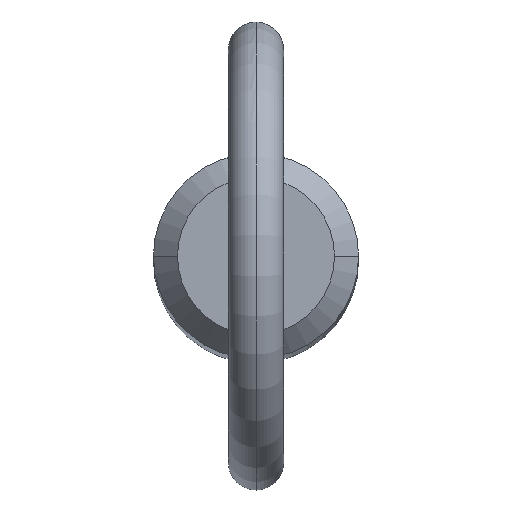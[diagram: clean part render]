
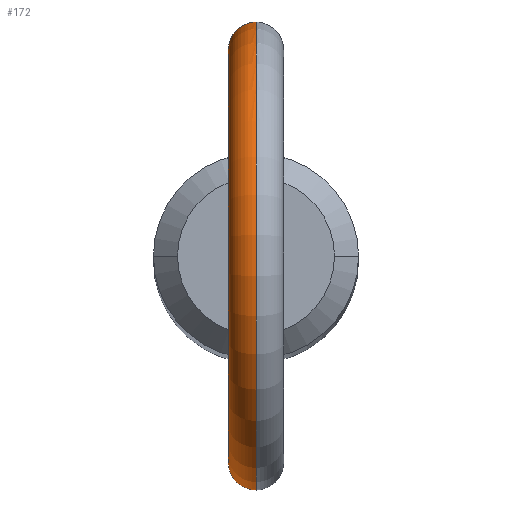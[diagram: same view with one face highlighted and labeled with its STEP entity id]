
A CAD part, top view. The second image highlights one B-rep face of the part: STEP entity #172.
In plain terms, the highlighted toroidal (fillet/blend) face has major radius 11.2 mm and minor radius 1.5 mm.
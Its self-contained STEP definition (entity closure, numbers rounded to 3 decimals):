
#4 = CARTESIAN_POINT ( 'NONE',  ( 0., 5.55, 123.177 ) ) ;
#6 = EDGE_CURVE ( 'NONE', #24, #300, #73, .T. ) ;
#8 = CARTESIAN_POINT ( 'NONE',  ( -1.321, 5.397, 125.704 ) ) ;
#11 = CARTESIAN_POINT ( 'NONE',  ( -1.054, -5.449, 123.604 ) ) ;
#15 = CARTESIAN_POINT ( 'NONE',  ( -0.785, -5.497, 126.358 ) ) ;
#19 = CARTESIAN_POINT ( 'NONE',  ( 0., 5.55, 123.177 ) ) ;
#24 = VERTEX_POINT ( 'NONE', #4 ) ;
#44 = DIRECTION ( 'NONE',  ( 1., 0., 0. ) ) ;
#51 = AXIS2_PLACEMENT_3D ( 'NONE', #491, #457, #451 ) ;
#57 = CARTESIAN_POINT ( 'NONE',  ( -1.486, 5.348, 124.438 ) ) ;
#59 = CARTESIAN_POINT ( 'NONE',  ( 0., -5.55, 123.177 ) ) ;
#69 = CARTESIAN_POINT ( 'NONE',  ( -0.425, 5.537, 123.221 ) ) ;
#73 = CIRCLE ( 'NONE', #417, 12.7 ) ;
#83 = EDGE_LOOP ( 'NONE', ( #316, #459, #310, #411 ) ) ;
#93 = CARTESIAN_POINT ( 'NONE',  ( -1.26, -5.407, 123.842 ) ) ;
#97 = EDGE_CURVE ( 'NONE', #379, #24, #162, .T. ) ;
#101 = CARTESIAN_POINT ( 'NONE',  ( -0.523, -5.526, 123.266 ) ) ;
#140 = CARTESIAN_POINT ( 'NONE',  ( -0.786, 5.497, 126.357 ) ) ;
#141 = CARTESIAN_POINT ( 'NONE',  ( -0.807, -5.492, 123.405 ) ) ;
#145 = CARTESIAN_POINT ( 'NONE',  ( -1.474, 5.351, 125.285 ) ) ;
#146 = CARTESIAN_POINT ( 'NONE',  ( -0.513, -5.527, 126.523 ) ) ;
#162 = B_SPLINE_CURVE_WITH_KNOTS ( 'NONE', 3,
 ( #329, #335, #248, #140, #373, #8, #145, #504, #57, #367, #287, #342, #430, #387, #433, #69, #474, #19 ),
 .UNSPECIFIED., .F., .F.,
 ( 4, 2, 2, 2, 2, 2, 2, 2, 4 ),
 ( 0.006, 0.006, 0.007, 0.008, 0.009, 0.009, 0.01, 0.01, 0.011 ),
 .UNSPECIFIED. ) ;
#166 = CARTESIAN_POINT ( 'NONE',  ( 0., 0., 134.6 ) ) ;
#171 = CARTESIAN_POINT ( 'NONE',  ( -1.455, -5.356, 124.336 ) ) ;
#172 = ADVANCED_FACE ( 'NONE', ( #450 ), #228, .T. ) ;
#180 = CARTESIAN_POINT ( 'NONE',  ( -0.416, -5.535, 126.567 ) ) ;
#181 = DIRECTION ( 'NONE',  ( 1., 0., 0. ) ) ;
#186 = CARTESIAN_POINT ( 'NONE',  ( 0., 0., 134.6 ) ) ;
#206 = CARTESIAN_POINT ( 'NONE',  ( -1.477, -5.35, 124.442 ) ) ;
#209 = CARTESIAN_POINT ( 'NONE',  ( -1.195, -5.421, 125.871 ) ) ;
#228 = TOROIDAL_SURFACE ( 'NONE', #432, 11.2, 1.5 ) ;
#241 = CARTESIAN_POINT ( 'NONE',  ( 0., 5.55, 126.645 ) ) ;
#247 = CARTESIAN_POINT ( 'NONE',  ( -1.5, -5.343, 124.653 ) ) ;
#248 = CARTESIAN_POINT ( 'NONE',  ( -0.425, 5.537, 126.577 ) ) ;
#252 = CARTESIAN_POINT ( 'NONE',  ( -1.485, -5.348, 125.079 ) ) ;
#255 = CARTESIAN_POINT ( 'NONE',  ( -0.107, -5.55, 123.177 ) ) ;
#282 = CARTESIAN_POINT ( 'NONE',  ( 0., -5.55, 123.177 ) ) ;
#287 = CARTESIAN_POINT ( 'NONE',  ( -1.26, 5.407, 123.843 ) ) ;
#290 = CARTESIAN_POINT ( 'NONE',  ( -0.211, -5.547, 126.629 ) ) ;
#300 = VERTEX_POINT ( 'NONE', #282 ) ;
#310 = ORIENTED_EDGE ( 'NONE', *, *, #322, .T. ) ;
#316 = ORIENTED_EDGE ( 'NONE', *, *, #6, .F. ) ;
#319 = DIRECTION ( 'NONE',  ( 0., 0., -1. ) ) ;
#322 = EDGE_CURVE ( 'NONE', #379, #525, #402, .T. ) ;
#326 = CARTESIAN_POINT ( 'NONE',  ( -0.212, -5.547, 123.188 ) ) ;
#329 = CARTESIAN_POINT ( 'NONE',  ( 0., 5.55, 126.645 ) ) ;
#331 = CARTESIAN_POINT ( 'NONE',  ( -0.106, -5.55, 126.645 ) ) ;
#335 = CARTESIAN_POINT ( 'NONE',  ( -0.213, 5.55, 126.645 ) ) ;
#336 = CARTESIAN_POINT ( 'NONE',  ( -0.42, -5.535, 123.232 ) ) ;
#339 = DIRECTION ( 'NONE',  ( 0., 0., -1. ) ) ;
#342 = CARTESIAN_POINT ( 'NONE',  ( -1.055, 5.449, 123.605 ) ) ;
#367 = CARTESIAN_POINT ( 'NONE',  ( -1.363, 5.38, 124.034 ) ) ;
#368 = CARTESIAN_POINT ( 'NONE',  ( -1.44, -5.36, 125.287 ) ) ;
#373 = CARTESIAN_POINT ( 'NONE',  ( -0.941, 5.471, 126.207 ) ) ;
#374 = CARTESIAN_POINT ( 'NONE',  ( -0.716, -5.504, 123.352 ) ) ;
#375 = CARTESIAN_POINT ( 'NONE',  ( -0.939, -5.472, 126.21 ) ) ;
#379 = VERTEX_POINT ( 'NONE', #241 ) ;
#387 = CARTESIAN_POINT ( 'NONE',  ( -0.807, 5.492, 123.406 ) ) ;
#402 = CIRCLE ( 'NONE', #51, 9.7 ) ;
#411 = ORIENTED_EDGE ( 'NONE', *, *, #510, .F. ) ;
#417 = AXIS2_PLACEMENT_3D ( 'NONE', #166, #44, #319 ) ;
#423 = CARTESIAN_POINT ( 'NONE',  ( -0.976, -5.464, 123.531 ) ) ;
#430 = CARTESIAN_POINT ( 'NONE',  ( -0.976, 5.464, 123.531 ) ) ;
#432 = AXIS2_PLACEMENT_3D ( 'NONE', #186, #181, #339 ) ;
#433 = CARTESIAN_POINT ( 'NONE',  ( -0.716, 5.504, 123.352 ) ) ;
#440 = B_SPLINE_CURVE_WITH_KNOTS ( 'NONE', 3,
 ( #59, #255, #326, #336, #101, #374, #141, #423, #11, #93, #466, #171, #206, #247, #505, #252, #368, #462, #209, #375, #15, #146, #180, #290, #331, #500 ),
 .UNSPECIFIED., .F., .F.,
 ( 4, 2, 2, 2, 2, 2, 2, 2, 2, 2, 2, 2, 4 ),
 ( 0.01, 0.01, 0.01, 0.011, 0.011, 0.012, 0.012, 0.012, 0.013, 0.013, 0.014, 0.014, 0.015 ),
 .UNSPECIFIED. ) ;
#450 = FACE_OUTER_BOUND ( 'NONE', #83, .T. ) ;
#451 = DIRECTION ( 'NONE',  ( 0., 0., -1. ) ) ;
#457 = DIRECTION ( 'NONE',  ( 1., 0., 0. ) ) ;
#459 = ORIENTED_EDGE ( 'NONE', *, *, #97, .F. ) ;
#462 = CARTESIAN_POINT ( 'NONE',  ( -1.294, -5.398, 125.686 ) ) ;
#466 = CARTESIAN_POINT ( 'NONE',  ( -1.362, -5.381, 124.032 ) ) ;
#467 = CARTESIAN_POINT ( 'NONE',  ( 0., -5.55, 126.645 ) ) ;
#474 = CARTESIAN_POINT ( 'NONE',  ( -0.214, 5.55, 123.177 ) ) ;
#491 = CARTESIAN_POINT ( 'NONE',  ( 0., 0., 134.6 ) ) ;
#500 = CARTESIAN_POINT ( 'NONE',  ( 0., -5.55, 126.645 ) ) ;
#504 = CARTESIAN_POINT ( 'NONE',  ( -1.509, 5.341, 124.655 ) ) ;
#505 = CARTESIAN_POINT ( 'NONE',  ( -1.503, -5.343, 124.759 ) ) ;
#510 = EDGE_CURVE ( 'NONE', #300, #525, #440, .T. ) ;
#525 = VERTEX_POINT ( 'NONE', #467 ) ;
